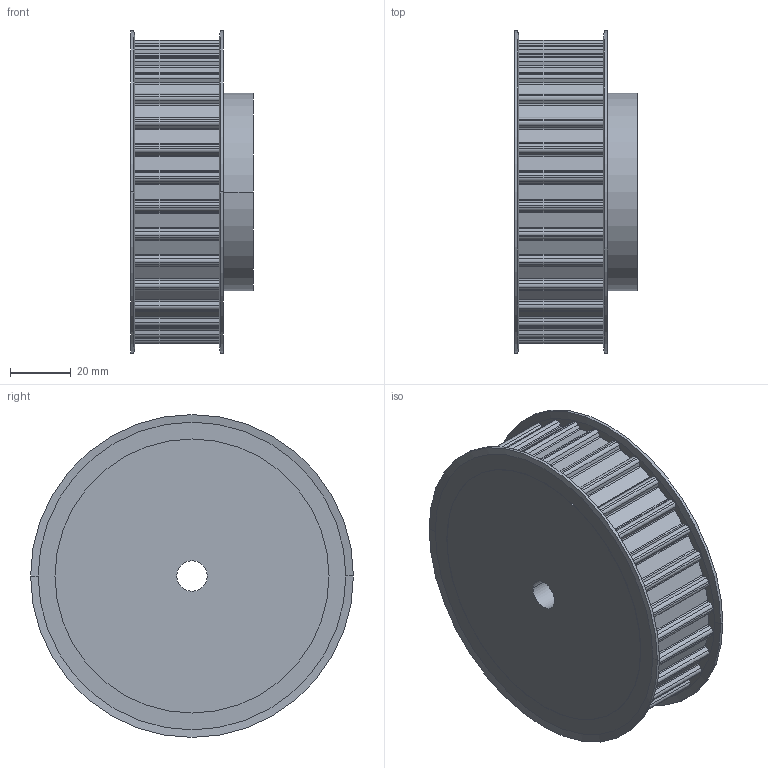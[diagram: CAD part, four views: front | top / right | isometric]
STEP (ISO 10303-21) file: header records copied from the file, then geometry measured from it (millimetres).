
FILE_DESCRIPTION( ( '' ), '1' );
FILE_NAME( 'C:/Users/Stangenbergd/Documents/CAD_Step/1/16833200.stp', '2021-10-19T09:45:54', ( '' ), ( '' ), ' ', ' ', ' ' );
FILE_SCHEMA( ( 'CONFIG_CONTROL_DESIGN' ) );
Length unit declared in the file: millimetre
Products named in the file (1): 1
Bounding box: 40.2 x 106 x 106 mm (x, y, z)
Volume: 253916.5 mm3; surface area: 35167.9 mm2
Topology: 1 solids, 1 shells, 283 faces, 820 edges, 544 vertices
Faces by surface type: cylinder 172, plane 103, cone 8
Entity records: 9510 total; most frequent: DIRECTION 1740, CARTESIAN_POINT 1648, ORIENTED_EDGE 1640, EDGE_CURVE 820, AXIS2_PLACEMENT_3D 636, VERTEX_POINT 544, LINE 468, VECTOR 468
